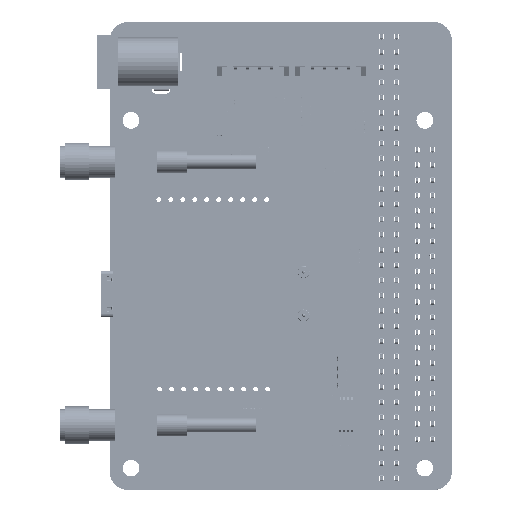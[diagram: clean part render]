
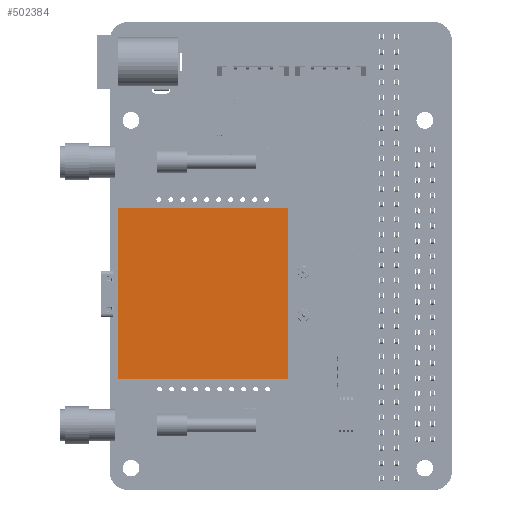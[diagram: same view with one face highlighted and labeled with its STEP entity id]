
A CAD part, top view. The second image highlights one B-rep face of the part: STEP entity #502384.
In plain terms, the highlighted planar face has unit normal (0, 0, 1).
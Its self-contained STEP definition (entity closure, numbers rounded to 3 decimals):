
#502144 = VERTEX_POINT('',#502145);
#502145 = CARTESIAN_POINT('',(-14.2,-14.2,2.25));
#502154 = PLANE('',#502155);
#502155 = AXIS2_PLACEMENT_3D('',#502156,#502157,#502158);
#502156 = CARTESIAN_POINT('',(-14.2,-14.2,2.25));
#502157 = DIRECTION('',(1.,0.,0.));
#502158 = DIRECTION('',(0.,0.,-1.));
#502166 = PLANE('',#502167);
#502167 = AXIS2_PLACEMENT_3D('',#502168,#502169,#502170);
#502168 = CARTESIAN_POINT('',(-14.2,-14.2,0.));
#502169 = DIRECTION('',(0.,1.,0.));
#502170 = DIRECTION('',(0.,0.,1.));
#502178 = EDGE_CURVE('',#502179,#502144,#502181,.T.);
#502179 = VERTEX_POINT('',#502180);
#502180 = CARTESIAN_POINT('',(-14.2,14.2,2.25));
#502181 = SURFACE_CURVE('',#502182,(#502186,#502193),.PCURVE_S1.);
#502182 = LINE('',#502183,#502184);
#502183 = CARTESIAN_POINT('',(-14.2,0.,2.25));
#502184 = VECTOR('',#502185,1.);
#502185 = DIRECTION('',(0.,-1.,0.));
#502186 = PCURVE('',#502154,#502187);
#502187 = DEFINITIONAL_REPRESENTATION('',(#502188),#502192);
#502188 = LINE('',#502189,#502190);
#502189 = CARTESIAN_POINT('',(0.,14.2));
#502190 = VECTOR('',#502191,1.);
#502191 = DIRECTION('',(0.,-1.));
#502192 = ( GEOMETRIC_REPRESENTATION_CONTEXT(2) 
PARAMETRIC_REPRESENTATION_CONTEXT() REPRESENTATION_CONTEXT('2D SPACE',''
  ) );
#502193 = PCURVE('',#502194,#502199);
#502194 = PLANE('',#502195);
#502195 = AXIS2_PLACEMENT_3D('',#502196,#502197,#502198);
#502196 = CARTESIAN_POINT('',(14.2,-14.2,2.25));
#502197 = DIRECTION('',(0.,0.,-1.));
#502198 = DIRECTION('',(-1.,0.,0.));
#502199 = DEFINITIONAL_REPRESENTATION('',(#502200),#502204);
#502200 = LINE('',#502201,#502202);
#502201 = CARTESIAN_POINT('',(28.4,14.2));
#502202 = VECTOR('',#502203,1.);
#502203 = DIRECTION('',(0.,-1.));
#502204 = ( GEOMETRIC_REPRESENTATION_CONTEXT(2) 
PARAMETRIC_REPRESENTATION_CONTEXT() REPRESENTATION_CONTEXT('2D SPACE',''
  ) );
#502222 = PLANE('',#502223);
#502223 = AXIS2_PLACEMENT_3D('',#502224,#502225,#502226);
#502224 = CARTESIAN_POINT('',(-14.2,14.2,2.25));
#502225 = DIRECTION('',(0.,-1.,0.));
#502226 = DIRECTION('',(0.,0.,-1.));
#502281 = PLANE('',#502282);
#502282 = AXIS2_PLACEMENT_3D('',#502283,#502284,#502285);
#502283 = CARTESIAN_POINT('',(14.2,-14.2,0.));
#502284 = DIRECTION('',(-1.,0.,0.));
#502285 = DIRECTION('',(0.,0.,1.));
#502340 = VERTEX_POINT('',#502341);
#502341 = CARTESIAN_POINT('',(14.2,-14.2,2.25));
#502362 = EDGE_CURVE('',#502144,#502340,#502363,.T.);
#502363 = SURFACE_CURVE('',#502364,(#502368,#502375),.PCURVE_S1.);
#502364 = LINE('',#502365,#502366);
#502365 = CARTESIAN_POINT('',(0.,-14.2,2.25));
#502366 = VECTOR('',#502367,1.);
#502367 = DIRECTION('',(1.,0.,0.));
#502368 = PCURVE('',#502166,#502369);
#502369 = DEFINITIONAL_REPRESENTATION('',(#502370),#502374);
#502370 = LINE('',#502371,#502372);
#502371 = CARTESIAN_POINT('',(2.25,14.2));
#502372 = VECTOR('',#502373,1.);
#502373 = DIRECTION('',(0.,1.));
#502374 = ( GEOMETRIC_REPRESENTATION_CONTEXT(2) 
PARAMETRIC_REPRESENTATION_CONTEXT() REPRESENTATION_CONTEXT('2D SPACE',''
  ) );
#502375 = PCURVE('',#502194,#502376);
#502376 = DEFINITIONAL_REPRESENTATION('',(#502377),#502381);
#502377 = LINE('',#502378,#502379);
#502378 = CARTESIAN_POINT('',(14.2,0.));
#502379 = VECTOR('',#502380,1.);
#502380 = DIRECTION('',(-1.,0.));
#502381 = ( GEOMETRIC_REPRESENTATION_CONTEXT(2) 
PARAMETRIC_REPRESENTATION_CONTEXT() REPRESENTATION_CONTEXT('2D SPACE',''
  ) );
#502384 = ADVANCED_FACE('',(#502385),#502194,.F.);
#502385 = FACE_BOUND('',#502386,.T.);
#502386 = EDGE_LOOP('',(#502387,#502388,#502411,#502432));
#502387 = ORIENTED_EDGE('',*,*,#502362,.T.);
#502388 = ORIENTED_EDGE('',*,*,#502389,.F.);
#502389 = EDGE_CURVE('',#502390,#502340,#502392,.T.);
#502390 = VERTEX_POINT('',#502391);
#502391 = CARTESIAN_POINT('',(14.2,14.2,2.25));
#502392 = SURFACE_CURVE('',#502393,(#502397,#502404),.PCURVE_S1.);
#502393 = LINE('',#502394,#502395);
#502394 = CARTESIAN_POINT('',(14.2,0.,2.25));
#502395 = VECTOR('',#502396,1.);
#502396 = DIRECTION('',(0.,-1.,0.));
#502397 = PCURVE('',#502194,#502398);
#502398 = DEFINITIONAL_REPRESENTATION('',(#502399),#502403);
#502399 = LINE('',#502400,#502401);
#502400 = CARTESIAN_POINT('',(0.,14.2));
#502401 = VECTOR('',#502402,1.);
#502402 = DIRECTION('',(0.,-1.));
#502403 = ( GEOMETRIC_REPRESENTATION_CONTEXT(2) 
PARAMETRIC_REPRESENTATION_CONTEXT() REPRESENTATION_CONTEXT('2D SPACE',''
  ) );
#502404 = PCURVE('',#502281,#502405);
#502405 = DEFINITIONAL_REPRESENTATION('',(#502406),#502410);
#502406 = LINE('',#502407,#502408);
#502407 = CARTESIAN_POINT('',(2.25,14.2));
#502408 = VECTOR('',#502409,1.);
#502409 = DIRECTION('',(0.,-1.));
#502410 = ( GEOMETRIC_REPRESENTATION_CONTEXT(2) 
PARAMETRIC_REPRESENTATION_CONTEXT() REPRESENTATION_CONTEXT('2D SPACE',''
  ) );
#502411 = ORIENTED_EDGE('',*,*,#502412,.F.);
#502412 = EDGE_CURVE('',#502179,#502390,#502413,.T.);
#502413 = SURFACE_CURVE('',#502414,(#502418,#502425),.PCURVE_S1.);
#502414 = LINE('',#502415,#502416);
#502415 = CARTESIAN_POINT('',(0.,14.2,2.25));
#502416 = VECTOR('',#502417,1.);
#502417 = DIRECTION('',(1.,0.,0.));
#502418 = PCURVE('',#502194,#502419);
#502419 = DEFINITIONAL_REPRESENTATION('',(#502420),#502424);
#502420 = LINE('',#502421,#502422);
#502421 = CARTESIAN_POINT('',(14.2,28.4));
#502422 = VECTOR('',#502423,1.);
#502423 = DIRECTION('',(-1.,0.));
#502424 = ( GEOMETRIC_REPRESENTATION_CONTEXT(2) 
PARAMETRIC_REPRESENTATION_CONTEXT() REPRESENTATION_CONTEXT('2D SPACE',''
  ) );
#502425 = PCURVE('',#502222,#502426);
#502426 = DEFINITIONAL_REPRESENTATION('',(#502427),#502431);
#502427 = LINE('',#502428,#502429);
#502428 = CARTESIAN_POINT('',(0.,14.2));
#502429 = VECTOR('',#502430,1.);
#502430 = DIRECTION('',(0.,1.));
#502431 = ( GEOMETRIC_REPRESENTATION_CONTEXT(2) 
PARAMETRIC_REPRESENTATION_CONTEXT() REPRESENTATION_CONTEXT('2D SPACE',''
  ) );
#502432 = ORIENTED_EDGE('',*,*,#502178,.T.);
